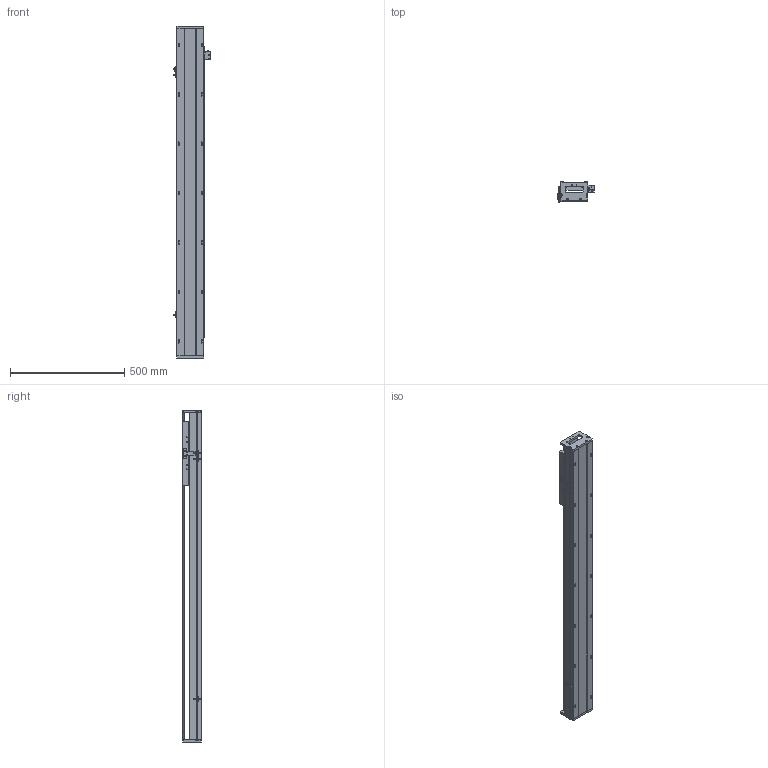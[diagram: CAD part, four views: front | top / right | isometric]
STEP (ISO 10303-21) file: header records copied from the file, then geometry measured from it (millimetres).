
FILE_DESCRIPTION (( 'STEP AP203' ), '1' );
FILE_NAME ('SKR12S-C2-S1072（简）.STEP', '2022-09-26T05:18:17', ( '' ), ( '' ), 'SwSTEP 2.0', 'SolidWorks 2018', '' );
FILE_SCHEMA (( 'CONFIG_CONTROL_DESIGN' ));
Length unit declared in the file: millimetre
Products named in the file (8): 棠掑假蚾輸; SKR12耜啣; EE-SX672; SKR12S-C2-S1072（简）; SKR12滑台-280L（简）; SKR12菁釱-C2-S1072(潠); SIKO棠掑; 覜茼え
Assembly tree (10 placements, depth 2):
  SKR12S-C2-S1072（简）
    SKR12菁釱-C2-S1072(潠)
    SKR12滑台-280L（简）
    SKR12耜啣  x2
    棠掑假蚾輸
    SIKO棠掑
    EE-SX672  x3
    覜茼え
Bounding box: 162.7 x 87.3 x 1452 mm (x, y, z)
Volume: 6701883 mm3; surface area: 1068047.6 mm2
Topology: 11 solids, 11 shells, 1010 faces, 2689 edges, 1699 vertices
Faces by surface type: cylinder 468, plane 404, cone 138
Entity records: 27683 total; most frequent: CARTESIAN_POINT 5639, DIRECTION 4557, ORIENTED_EDGE 4334, EDGE_CURVE 2167, AXIS2_PLACEMENT_3D 1689, VERTEX_POINT 1403, LINE 1179, VECTOR 1179
